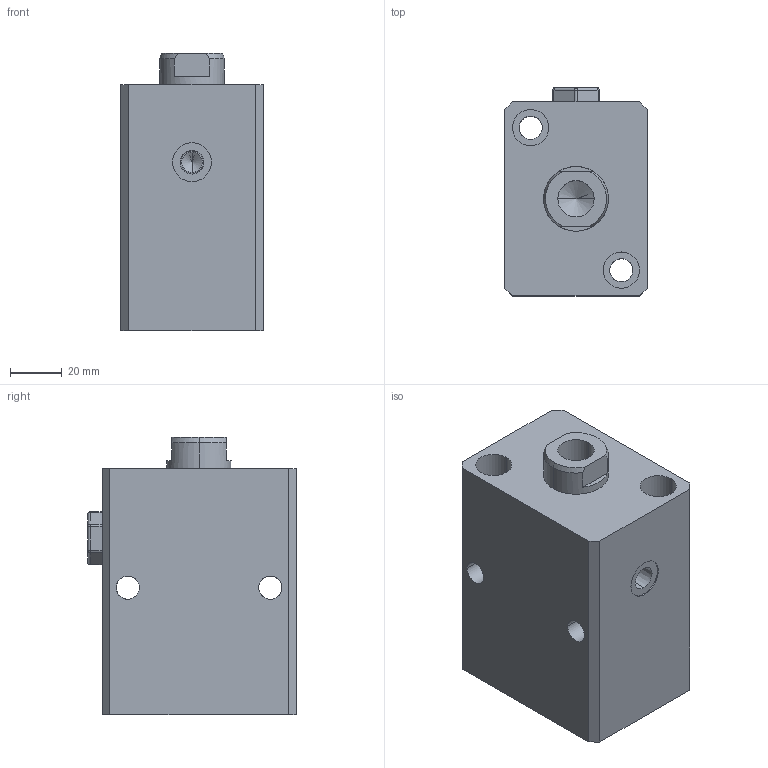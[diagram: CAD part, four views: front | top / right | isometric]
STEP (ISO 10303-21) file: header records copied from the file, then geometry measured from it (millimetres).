
FILE_DESCRIPTION (( 'STEP AP203' ), '1' );
FILE_NAME ('4510 311.STEP', '2016-01-29T10:11:19', ( '' ), ( '' ), 'SwSTEP 2.0', 'SolidWorks 2015', '' );
FILE_SCHEMA (( 'CONFIG_CONTROL_DESIGN' ));
Length unit declared in the file: millimetre
Products named in the file (1): 4510 311
Bounding box: 55 x 80.5 x 107 mm (x, y, z)
Volume: 367220.7 mm3; surface area: 44525 mm2
Topology: 1 solids, 2 shells, 103 faces, 249 edges, 145 vertices
Faces by surface type: cylinder 49, plane 31, cone 17, sphere 6
Entity records: 2997 total; most frequent: CARTESIAN_POINT 548, DIRECTION 524, ORIENTED_EDGE 470, EDGE_CURVE 235, AXIS2_PLACEMENT_3D 205, VERTEX_POINT 145, EDGE_LOOP 124, LINE 114
